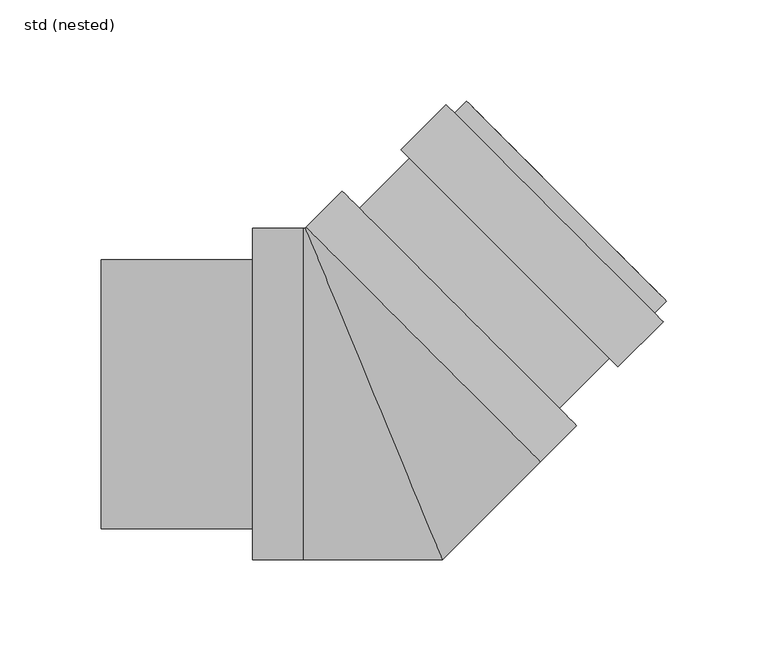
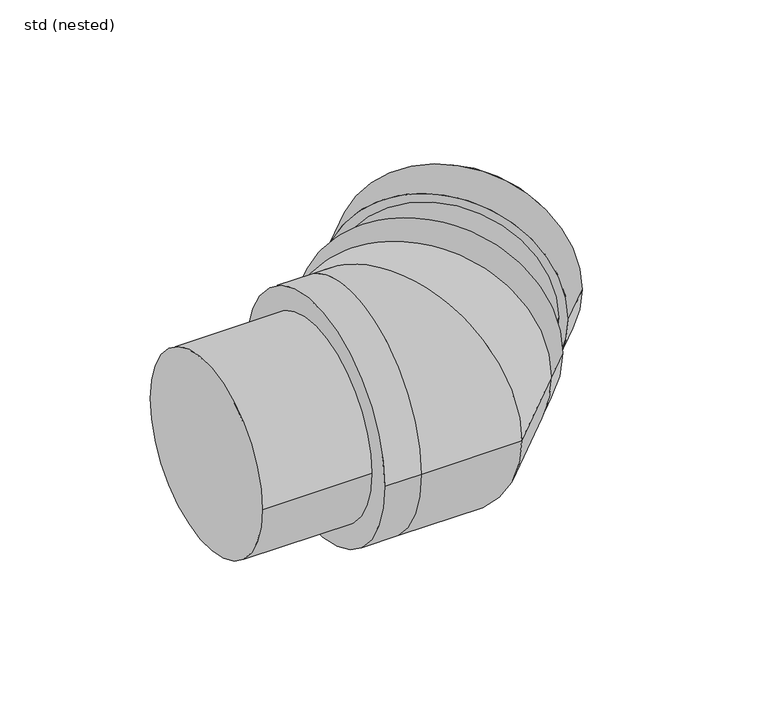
"""IFC4 building model written with IfcOpenShell, lengths in millimetres: pipe fitting geometry, ZZZ_do not use_PIF_ST_WPB_GM-X compound pipe bend_ACO : std (nested)."""

from ifc_helpers import new_model, si_unit, point, frame, origin, origin_2d, place, context, project, spatial, polyline, circle_curve, ellipse_curve, trimmed, segment, composite_curve, outline, extrude, source, transform, mapped, element, save
from ifc_brep_helpers import plane_surface, cylinder_surface, revolved_surface, advanced_brep


def std_nested_fe88de9d(model_context):
    return source(origin(), model_context, "Body", "SolidModel", [
        advanced_brep(
        [(35.7796031, 143.2598339, 0.0), (143.2598339, 35.7796031, 0.0), (120.9152596, 13.4350288, 0.0), (13.4350288, 120.9152596, 0.0), (144.9568901, 45.9619408, 0.0), (45.9619408, 144.9568901, 0.0), (48.4368145, 142.4820164, 0.0), (142.4820164, 48.4368145, 0.0), (91.9238816, -7.0710678, 0.0), (-7.0710678, 91.9238816, 0.0), (89.4490078, -4.5961941, 0.0), (-4.5961941, 89.4490078, 0.0), (139.0171932, 40.0222438, 0.0), (40.0222438, 139.0171932, 0.0), (17.6776695, 116.6726189, 0.0), (116.6726189, 17.6776695, 0.0)],
        [
            (0, 1, circle_curve(frame((89.5197185, 89.5197185, 0.0), z_axis=(-0.7071067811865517, -0.7071067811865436, 0.0), x_axis=(-0.7071067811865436, 0.7071067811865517, 0.0)), 76.0)),
            (1, 2),
            (2, 3, circle_curve(frame((67.1751442, 67.1751442, 0.0), z_axis=(0.7071067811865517, 0.7071067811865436, 0.0), x_axis=(-0.7071067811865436, 0.7071067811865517, 0.0)), 76.0)),
            (3, 0),
            (1, 0, circle_curve(frame((89.5197185, 89.5197185, 0.0), z_axis=(-0.7071067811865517, -0.7071067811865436, 0.0), x_axis=(-0.7071067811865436, 0.7071067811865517, 0.0)), 76.0)),
            (3, 2, circle_curve(frame((67.1751442, 67.1751442, 0.0), z_axis=(0.7071067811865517, 0.7071067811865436, 0.0), x_axis=(-0.7071067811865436, 0.7071067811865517, 0.0)), 76.0)),
            (4, 5, circle_curve(frame((95.4594155, 95.4594155, 0.0), z_axis=(0.7071067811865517, 0.7071067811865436, 0.0), x_axis=(-0.7071067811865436, 0.7071067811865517, 0.0)), 70.0)),
            (5, 4, circle_curve(frame((95.4594155, 95.4594155, 0.0), z_axis=(0.7071067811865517, 0.7071067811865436, 0.0), x_axis=(-0.7071067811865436, 0.7071067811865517, 0.0)), 70.0)),
            (6, 7, circle_curve(frame((95.4594155, 95.4594155, 0.0), z_axis=(-0.7071067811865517, -0.7071067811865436, 0.0), x_axis=(-0.7071067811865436, 0.7071067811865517, 0.0)), 66.5)),
            (7, 6, circle_curve(frame((95.4594155, 95.4594155, 0.0), z_axis=(-0.7071067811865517, -0.7071067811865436, 0.0), x_axis=(-0.7071067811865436, 0.7071067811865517, 0.0)), 66.5)),
            (8, 9, circle_curve(frame((42.4264069, 42.4264069, 0.0), z_axis=(-0.7071067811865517, -0.7071067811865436, 0.0), x_axis=(-0.7071067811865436, 0.7071067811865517, 0.0)), 70.0)),
            (9, 8, circle_curve(frame((42.4264069, 42.4264069, 0.0), z_axis=(-0.7071067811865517, -0.7071067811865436, 0.0), x_axis=(-0.7071067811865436, 0.7071067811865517, 0.0)), 70.0)),
            (10, 11, circle_curve(frame((42.4264069, 42.4264069, 0.0), z_axis=(0.7071067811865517, 0.7071067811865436, 0.0), x_axis=(-0.7071067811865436, 0.7071067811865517, 0.0)), 66.5)),
            (11, 10, circle_curve(frame((42.4264069, 42.4264069, 0.0), z_axis=(0.7071067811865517, 0.7071067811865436, 0.0), x_axis=(-0.7071067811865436, 0.7071067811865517, 0.0)), 66.5)),
            (4, 12),
            (12, 13, circle_curve(frame((89.5197185, 89.5197185, 0.0), z_axis=(0.7071067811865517, 0.7071067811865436, 0.0), x_axis=(-0.7071067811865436, 0.7071067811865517, 0.0)), 70.0)),
            (13, 5),
            (9, 14),
            (14, 15, circle_curve(frame((67.1751442, 67.1751442, 0.0), z_axis=(-0.7071067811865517, -0.7071067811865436, 0.0), x_axis=(-0.7071067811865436, 0.7071067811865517, 0.0)), 70.0)),
            (15, 8),
            (13, 12, circle_curve(frame((89.5197185, 89.5197185, 0.0), z_axis=(0.7071067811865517, 0.7071067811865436, 0.0), x_axis=(-0.7071067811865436, 0.7071067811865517, 0.0)), 70.0)),
            (15, 14, circle_curve(frame((67.1751442, 67.1751442, 0.0), z_axis=(-0.7071067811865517, -0.7071067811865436, 0.0), x_axis=(-0.7071067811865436, 0.7071067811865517, 0.0)), 70.0)),
            (6, 11),
            (10, 7),
        ],
        [
            cylinder_surface(frame((67.1751442, 67.1751442, 0.0), z_axis=(0.7071067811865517, 0.7071067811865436, 0.0), x_axis=(-0.7071067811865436, 0.7071067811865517, 0.0)), 76.0),
            plane_surface(frame((45.9619408, 144.9568901, 0.0), z_axis=(0.7071067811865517, 0.7071067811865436, 0.0), x_axis=(0.0, 0.0, 1.0))),
            plane_surface(frame((-7.0710678, 91.9238816, 0.0), z_axis=(-0.7071067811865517, -0.7071067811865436, 0.0), x_axis=(0.0, 0.0, -1.0))),
            cylinder_surface(frame((42.4264069, 42.4264069, 0.0), z_axis=(0.7071067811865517, 0.7071067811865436, 0.0), x_axis=(-0.7071067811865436, 0.7071067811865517, 0.0)), 70.0),
            revolved_surface(polyline([(48.436814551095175, 142.4820164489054, 0.0), (-4.596194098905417, 89.44900779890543, 0.0)]), (42.4264069, 42.4264069, 0.0), (0.7071067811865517, 0.7071067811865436, 0.0)),
            plane_surface(frame((35.7796031, 143.2598339, 0.0), z_axis=(0.7071067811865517, 0.7071067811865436, 0.0), x_axis=(0.0, 0.0, 1.0))),
            plane_surface(frame((13.4350288, 120.9152596, 0.0), z_axis=(-0.7071067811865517, -0.7071067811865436, 0.0), x_axis=(0.0, 0.0, -1.0))),
        ],
        [
            (0, [[1, 2, 3, 4]]),
            (0, [[5, -4, 6, -2]]),
            (1, [[7, 8], [9, 10]]),
            (2, [[11, 12], [13, 14]]),
            (3, [[-7, 15, 16, 17]]),
            (3, [[-12, 18, 19, 20]]),
            (3, [[-8, -17, 21, -15]]),
            (3, [[-11, -20, 22, -18]]),
            (4, [[23, -13, 24, -9]]),
            (4, [[-23, -10, -24, -14]]),
            (5, [[-1, -5], [-16, -21]]),
            (6, [[-6, -3], [-19, -22]]),
        ],
    ),
        extrude(outline(composite_curve([segment(trimmed(circle_curve(origin_2d(), 66.5), [point((-66.5, 0.0))], [point((66.5, 0.0))], False, "CARTESIAN"), True, "CONTINUOUS"), segment(trimmed(circle_curve(origin_2d(), 66.5), [point((66.5, 0.0))], [point((-66.5, 0.0))], False, "CARTESIAN"), True, "CONTINUOUS")], self_intersect=False)), frame((-135.0, 0.0, 0.0), z_axis=(1.0, 0.0, 0.0), x_axis=(0.0, 1.0, 0.0)), (0.0, 0.0, 1.0), 75.0),
        advanced_brep(
        [(-33.3797257, 82.5857864, 0.0), (82.5857864, -33.3797257, 0.0), (100.4091629, -15.5563492, 0.0), (-15.5563492, 100.4091629, 0.0), (-34.7939392, -82.0, 0.0), (33.9655121, -82.0, 0.0), (-33.9655121, 82.0, 0.0), (-34.7939392, 82.0, 0.0), (-60.0, -82.0, 0.0), (-60.0, 82.0, 0.0)],
        [
            (0, 1, circle_curve(frame((24.6030304, 24.6030304, 0.0), z_axis=(0.7071067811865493, 0.7071067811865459, 0.0), x_axis=(0.7071067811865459, -0.7071067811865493, 0.0)), 82.0)),
            (1, 2),
            (2, 3, circle_curve(frame((42.4264069, 42.4264069, 0.0), z_axis=(-0.7071067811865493, -0.7071067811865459, 0.0), x_axis=(0.7071067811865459, -0.7071067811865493, 0.0)), 82.0)),
            (3, 0),
            (1, 0, circle_curve(frame((24.6030304, 24.6030304, 0.0), z_axis=(0.7071067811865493, 0.7071067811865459, 0.0), x_axis=(0.7071067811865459, -0.7071067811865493, 0.0)), 82.0)),
            (3, 2, circle_curve(frame((42.4264069, 42.4264069, 0.0), z_axis=(-0.7071067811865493, -0.7071067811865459, 0.0), x_axis=(0.7071067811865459, -0.7071067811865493, 0.0)), 82.0)),
            (4, 5),
            (5, 6, ellipse_curve(frame((0.0, 0.0, 0.0), z_axis=(-0.9238795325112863, -0.38268343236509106, 0.0), x_axis=(-0.38268343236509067, 0.9238795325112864, 0.0)), 88.7561604, 82.0)),
            (6, 7),
            (7, 4, circle_curve(frame((-34.7939392, 0.0, 0.0), z_axis=(1.0, 0.0, 0.0), x_axis=(0.0, 1.0, 0.0)), 82.0)),
            (4, 7, circle_curve(frame((-34.7939392, 0.0, 0.0), z_axis=(1.0, 0.0, 0.0), x_axis=(0.0, 1.0, 0.0)), 82.0)),
            (6, 5, ellipse_curve(frame((0.0, 0.0, 0.0), z_axis=(-0.9238795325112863, -0.38268343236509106, 0.0), x_axis=(-0.38268343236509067, 0.9238795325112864, 0.0)), 88.7561604, 82.0)),
            (5, 1),
            (0, 6),
            (8, 9, circle_curve(frame((-60.0, 0.0, 0.0), z_axis=(-1.0, 0.0, 0.0), x_axis=(0.0, 1.0, 0.0)), 82.0)),
            (9, 8, circle_curve(frame((-60.0, 0.0, 0.0), z_axis=(-1.0, 0.0, 0.0), x_axis=(0.0, 1.0, 0.0)), 82.0)),
            (7, 9),
            (8, 4),
        ],
        [
            cylinder_surface(frame((24.6030304, 24.6030304, 0.0), z_axis=(0.7071067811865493, 0.7071067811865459, 0.0), x_axis=(0.7071067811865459, -0.7071067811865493, 0.0)), 82.0),
            cylinder_surface(frame((-34.7939392, 0.0, 0.0), z_axis=(-1.0, 0.0, 0.0), x_axis=(0.0, 1.0, 0.0)), 82.0),
            cylinder_surface(frame((0.0, 0.0, 0.0), z_axis=(-0.7071067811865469, -0.7071067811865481, 0.0), x_axis=(-0.7071067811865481, 0.7071067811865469, 0.0)), 82.0),
            plane_surface(frame((100.4091629, -15.5563492, 0.0), z_axis=(0.7071067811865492, 0.7071067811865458, 0.0), x_axis=(0.0, 0.0, 1.0))),
            plane_surface(frame((-60.0, 82.0, 0.0), z_axis=(-1.0, 0.0, 0.0), x_axis=(0.0, 0.0, 1.0))),
        ],
        [
            (0, [[1, 2, 3, 4]]),
            (0, [[5, -4, 6, -2]]),
            (1, [[7, 8, 9, 10]]),
            (1, [[-7, 11, -9, 12]]),
            (2, [[-8, 13, -1, 14]]),
            (2, [[-12, -14, -5, -13]]),
            (3, [[-3, -6]]),
            (4, [[15, 16]]),
            (1, [[-10, 17, -15, 18]]),
            (1, [[-11, -18, -16, -17]]),
        ],
    ),
    ])


if __name__ == "__main__":
    model = new_model("IFC4")
    model_context = context("Model", 3, world=origin())
    ifc_project = project(units=[si_unit("LENGTHUNIT", "METRE", prefix="MILLI")], contexts=[model_context])
    site = spatial("IfcSite", under=ifc_project)
    building = spatial("IfcBuilding", under=site)
    placement = place(None, origin())
    std_nested_shape = std_nested_fe88de9d(model_context)
    element("IfcPipeFitting", 1, ObjectType="ZZZ_do not use_PIF_ST_WPB_GM-X compound pipe bend_ACO : std (nested)", at=placement, inside=building, context=model_context, shape_type="MappedRepresentation", body=[
        mapped(std_nested_shape, transform((0.0, 0.0, 0.0), x_axis=(1.0, 0.0, 0.0), y_axis=(0.0, 1.0, 0.0), z_axis=(0.0, 0.0, 1.0))),
    ])
    save(model, "model.ifc")
